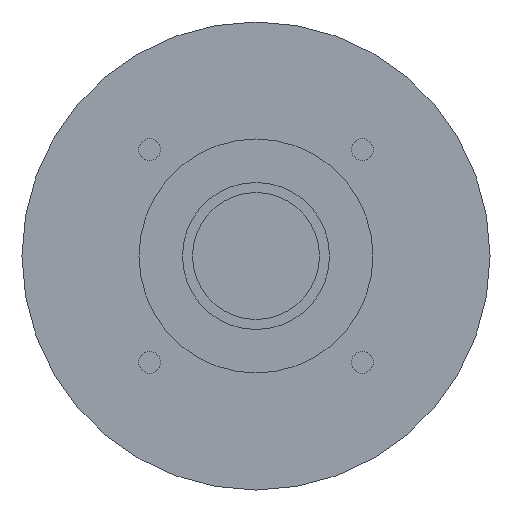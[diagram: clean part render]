
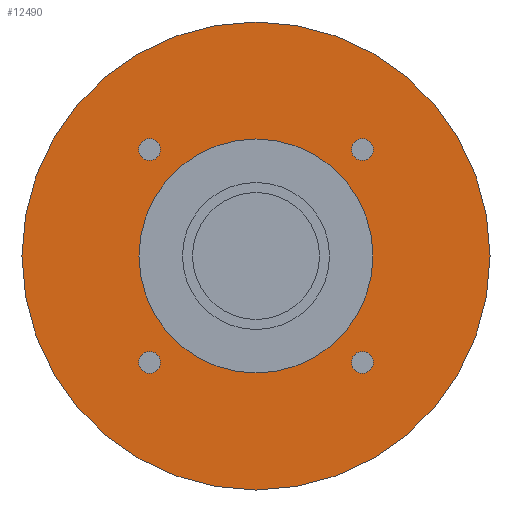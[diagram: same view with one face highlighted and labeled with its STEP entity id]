
A CAD part, left-side view. The second image highlights one B-rep face of the part: STEP entity #12490.
In plain terms, the highlighted planar face has unit normal (-1, 0, 0) as drawn and (0, 0, -1) by its records, which use the part's own axes.
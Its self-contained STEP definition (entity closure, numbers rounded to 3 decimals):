
#10460=CARTESIAN_POINT('',(-70.,0.,-79.7));
#10470=VERTEX_POINT('',#10460);
#10500=CARTESIAN_POINT('',(0.,0.,
-79.7));
#10510=DIRECTION('',(0.,0.,-1.));
#10520=DIRECTION('',(0.,-1.,0.));
#10530=AXIS2_PLACEMENT_3D('',#10500,#10510,#10520);
#10540=CIRCLE('',#10530,70.);
#10550=CARTESIAN_POINT('',(70.,0.,-79.7));
#10560=VERTEX_POINT('',#10550);
#10570=EDGE_CURVE('',#10470,#10560,#10540,.T.);
#11380=CARTESIAN_POINT('',(0.,0.,
-79.7));
#11390=DIRECTION('',(0.,0.,1.));
#11400=DIRECTION('',(0.,1.,0.));
#11410=AXIS2_PLACEMENT_3D('',#11380,#11390,#11400);
#11420=CIRCLE('',#11410,35.);
#11430=CARTESIAN_POINT('',(0.,35.,-79.7));
#11440=VERTEX_POINT('',#11430);
#11450=CARTESIAN_POINT('',(-35.,0.,-79.7));
#11460=VERTEX_POINT('',#11450);
#11470=EDGE_CURVE('',#11440,#11460,#11420,.T.);
#11600=CARTESIAN_POINT('',(35.,0.,-79.7));
#11610=VERTEX_POINT('',#11600);
#11640=EDGE_CURVE('',#11610,#11440,#11420,.T.);
#11690=CARTESIAN_POINT('',(0.,0.,
-79.7));
#11700=DIRECTION('',(0.,0.,-1.));
#11710=DIRECTION('',(1.,0.,0.));
#11720=AXIS2_PLACEMENT_3D('',#11690,#11700,#11710);
#11730=PLANE('',#11720);
#11740=CARTESIAN_POINT('',(-31.82,31.82,-79.7));
#11750=DIRECTION('',(0.,0.,-1.));
#11760=DIRECTION('',(-1.,0.,0.));
#11770=AXIS2_PLACEMENT_3D('',#11740,#11750,#11760);
#11780=CIRCLE('',#11770,3.25);
#11790=CARTESIAN_POINT('',(-35.07,31.82,-79.7));
#11800=VERTEX_POINT('',#11790);
#11810=CARTESIAN_POINT('',(-28.57,31.82,-79.7));
#11820=VERTEX_POINT('',#11810);
#11830=EDGE_CURVE('',#11800,#11820,#11780,.T.);
#11840=ORIENTED_EDGE('',*,*,#11830,.F.);
#11850=EDGE_CURVE('',#11820,#11800,#11780,.T.);
#11860=ORIENTED_EDGE('',*,*,#11850,.F.);
#11870=EDGE_LOOP('',(#11860,#11840));
#11880=FACE_BOUND('',#11870,.T.);
#11890=CARTESIAN_POINT('',(-31.82,-31.82,-79.7));
#11900=DIRECTION('',(0.,0.,-1.));
#11910=DIRECTION('',(0.,-1.,0.));
#11920=AXIS2_PLACEMENT_3D('',#11890,#11900,#11910);
#11930=CIRCLE('',#11920,3.25);
#11940=CARTESIAN_POINT('',(-31.82,-35.07,-79.7));
#11950=VERTEX_POINT('',#11940);
#11960=CARTESIAN_POINT('',(-31.82,-28.57,-79.7));
#11970=VERTEX_POINT('',#11960);
#11980=EDGE_CURVE('',#11950,#11970,#11930,.T.);
#11990=ORIENTED_EDGE('',*,*,#11980,.F.);
#12000=EDGE_CURVE('',#11970,#11950,#11930,.T.);
#12010=ORIENTED_EDGE('',*,*,#12000,.F.);
#12020=EDGE_LOOP('',(#12010,#11990));
#12030=FACE_BOUND('',#12020,.T.);
#12040=EDGE_CURVE('',#11460,#11610,#11420,.T.);
#12050=ORIENTED_EDGE('',*,*,#12040,.T.);
#12060=ORIENTED_EDGE('',*,*,#11470,.T.);
#12070=ORIENTED_EDGE('',*,*,#11640,.T.);
#12080=EDGE_LOOP('',(#12070,#12060,#12050));
#12090=FACE_BOUND('',#12080,.T.);
#12100=CARTESIAN_POINT('',(31.82,-31.82,-79.7));
#12110=DIRECTION('',(0.,0.,-1.));
#12120=DIRECTION('',(1.,0.,0.));
#12130=AXIS2_PLACEMENT_3D('',#12100,#12110,#12120);
#12140=CIRCLE('',#12130,3.25);
#12150=CARTESIAN_POINT('',(35.07,-31.82,-79.7));
#12160=VERTEX_POINT('',#12150);
#12170=CARTESIAN_POINT('',(28.57,-31.82,-79.7));
#12180=VERTEX_POINT('',#12170);
#12190=EDGE_CURVE('',#12160,#12180,#12140,.T.);
#12200=ORIENTED_EDGE('',*,*,#12190,.F.);
#12210=EDGE_CURVE('',#12180,#12160,#12140,.T.);
#12220=ORIENTED_EDGE('',*,*,#12210,.F.);
#12230=EDGE_LOOP('',(#12220,#12200));
#12240=FACE_BOUND('',#12230,.T.);
#12250=CARTESIAN_POINT('',(31.82,31.82,-79.7));
#12260=DIRECTION('',(0.,0.,-1.));
#12270=DIRECTION('',(0.,1.,0.));
#12280=AXIS2_PLACEMENT_3D('',#12250,#12260,#12270);
#12290=CIRCLE('',#12280,3.25);
#12300=CARTESIAN_POINT('',(31.82,35.07,-79.7));
#12310=VERTEX_POINT('',#12300);
#12320=CARTESIAN_POINT('',(31.82,28.57,-79.7));
#12330=VERTEX_POINT('',#12320);
#12340=EDGE_CURVE('',#12310,#12330,#12290,.T.);
#12350=ORIENTED_EDGE('',*,*,#12340,.F.);
#12360=EDGE_CURVE('',#12330,#12310,#12290,.T.);
#12370=ORIENTED_EDGE('',*,*,#12360,.F.);
#12380=EDGE_LOOP('',(#12370,#12350));
#12390=FACE_BOUND('',#12380,.T.);
#12400=ORIENTED_EDGE('',*,*,#10570,.T.);
#12410=CARTESIAN_POINT('',(0.,-70.,-79.7));
#12420=VERTEX_POINT('',#12410);
#12430=EDGE_CURVE('',#12420,#10470,#10540,.T.);
#12440=ORIENTED_EDGE('',*,*,#12430,.T.);
#12450=EDGE_CURVE('',#10560,#12420,#10540,.T.);
#12460=ORIENTED_EDGE('',*,*,#12450,.T.);
#12470=EDGE_LOOP('',(#12460,#12440,#12400));
#12480=FACE_OUTER_BOUND('',#12470,.T.);
#12490=ADVANCED_FACE('',(#11880,#12030,#12090,#12240,#12390,#12480),
#11730,.T.);
